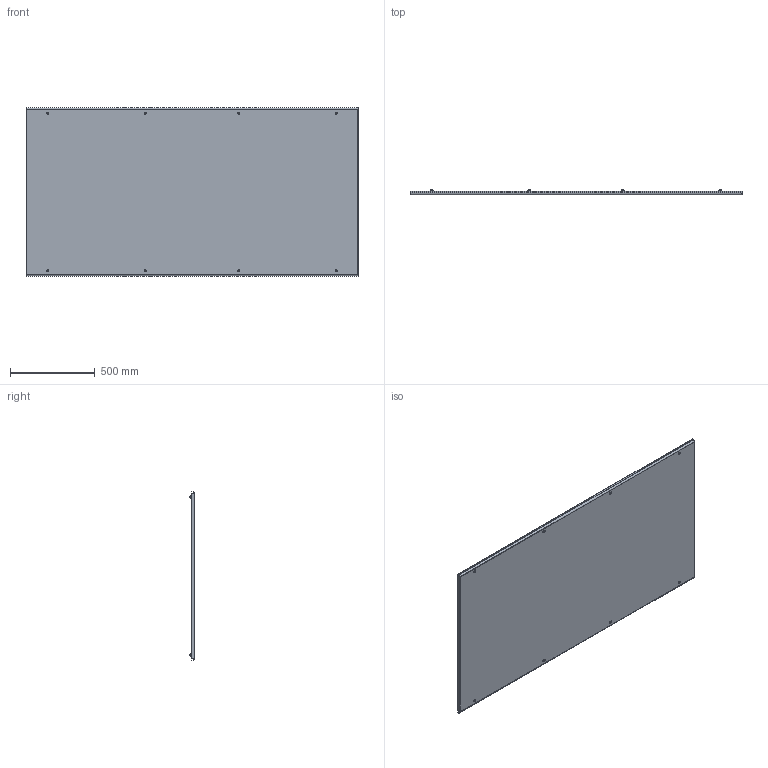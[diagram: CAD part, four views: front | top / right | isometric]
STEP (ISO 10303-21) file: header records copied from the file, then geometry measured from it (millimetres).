
FILE_DESCRIPTION(('CAx-IF Rec.Pracs.---Model Styling and Organization---1.2---2011-12-15','CAx-IF Rec.Pracs.---Geometric and Assembly Validation Properties---4.1---2014-06-16','CAx-IF Rec.Pracs.---PMI Polyline Presentation---2.0---2013-05-24'),'2;1');
FILE_NAME('R5CRE20100.stp','2021-05-06T03:13:51+03:00',(''),(''),'STEP Interface 4.4 by CT CoreTechnologie','3D_Evolution4.4 by CT CoreTechnologie','');
FILE_SCHEMA(('AUTOMOTIVE_DESIGN { 1 0 10303 214 1 1 1 1 }'));
Length unit declared in the file: millimetre
Products named in the file (6): R5CRE20100; QB05T071; QB05C071; AC00C622; AC00C172_AC00C172; A0200018
Assembly tree (26 placements, depth 3):
  R5CRE20100
    QB05T071
      QB05C071
    AC00C622  x8
    AC00C172_AC00C172  x8
    A0200018  x8
Bounding box: 1955 x 33.5 x 994 mm (x, y, z)
Surface area: 4112586.4 mm2 (no closed solid volume)
Topology: 0 solids, 51 shells, 766 faces, 1848 edges, 1176 vertices
Faces by surface type: plane 606, bspline 88, cylinder 72
Entity records: 5029 total; most frequent: CARTESIAN_POINT 1050, DIRECTION 702, ORIENTED_EDGE 696, EDGE_CURVE 348, VECTOR 260, LINE 260, VERTEX_POINT 231, AXIS2_PLACEMENT_3D 221
